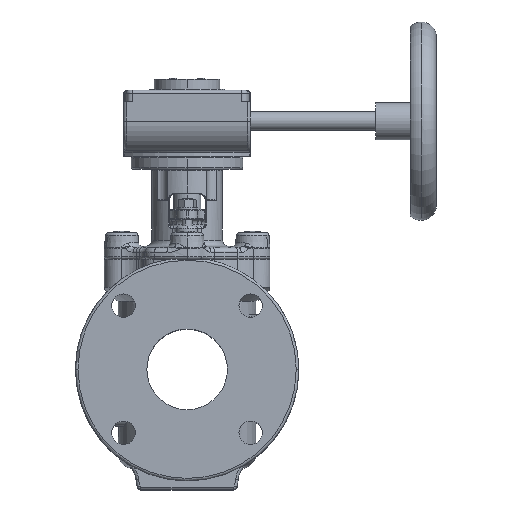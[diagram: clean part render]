
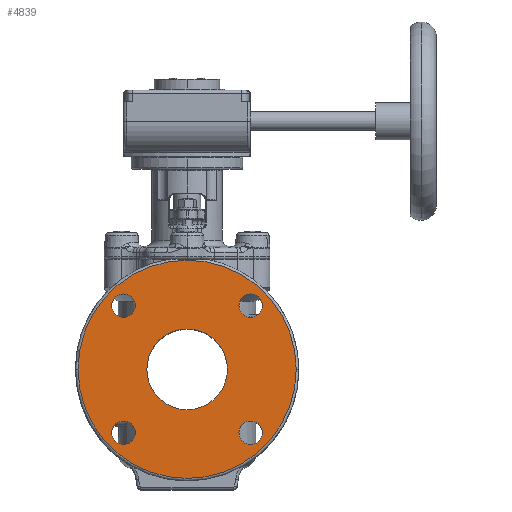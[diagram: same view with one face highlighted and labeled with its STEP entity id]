
A CAD part, top view. The second image highlights one B-rep face of the part: STEP entity #4839.
In plain terms, the highlighted planar face has unit normal (0, 0, 1).
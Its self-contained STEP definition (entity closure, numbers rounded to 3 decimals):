
#125 = DIRECTION ( 'NONE',  ( 1., 0., 0. ) ) ;
#142 = ORIENTED_EDGE ( 'NONE', *, *, #26993, .F. ) ;
#289 = CARTESIAN_POINT ( 'NONE',  ( -51.265, 51.265, 95. ) ) ;
#296 = CIRCLE ( 'NONE', #9255, 32.5 ) ;
#574 = VERTEX_POINT ( 'NONE', #10365 ) ;
#698 = AXIS2_PLACEMENT_3D ( 'NONE', #27262, #35847, #20684 ) ;
#1092 = AXIS2_PLACEMENT_3D ( 'NONE', #31806, #25431, #31409 ) ;
#1857 = EDGE_LOOP ( 'NONE', ( #19590, #6294 ) ) ;
#2225 = VERTEX_POINT ( 'NONE', #7156 ) ;
#2403 = DIRECTION ( 'NONE',  ( 0., 0., 1. ) ) ;
#2483 = VERTEX_POINT ( 'NONE', #38043 ) ;
#3010 = CIRCLE ( 'NONE', #1092, 9.5 ) ;
#3712 = DIRECTION ( 'NONE',  ( 0., -1., 0. ) ) ;
#4077 = DIRECTION ( 'NONE',  ( 1., 0., 0. ) ) ;
#4427 = ORIENTED_EDGE ( 'NONE', *, *, #31666, .T. ) ;
#4599 = AXIS2_PLACEMENT_3D ( 'NONE', #25460, #16482, #4077 ) ;
#4839 = ADVANCED_FACE ( 'Defeatured_0_191', ( #13297, #7296, #16081, #19668, #34229, #28866 ), #28253, .T. ) ;
#5544 = DIRECTION ( 'NONE',  ( -1., 0., 0. ) ) ;
#5937 = CARTESIAN_POINT ( 'NONE',  ( -41.765, 51.265, 95. ) ) ;
#6294 = ORIENTED_EDGE ( 'NONE', *, *, #24789, .F. ) ;
#6383 = CARTESIAN_POINT ( 'NONE',  ( 88., 0., 95. ) ) ;
#6721 = DIRECTION ( 'NONE',  ( 0., 0., 1. ) ) ;
#6723 = AXIS2_PLACEMENT_3D ( 'NONE', #26968, #2403, #12186 ) ;
#7156 = CARTESIAN_POINT ( 'NONE',  ( -60.765, -51.265, 95. ) ) ;
#7296 = FACE_BOUND ( 'NONE', #19186, .T. ) ;
#7650 = DIRECTION ( 'NONE',  ( 0., 0., 1. ) ) ;
#8151 = AXIS2_PLACEMENT_3D ( 'NONE', #19788, #38155, #10833 ) ;
#8359 = CARTESIAN_POINT ( 'NONE',  ( 32.5, 0., 95. ) ) ;
#9255 = AXIS2_PLACEMENT_3D ( 'NONE', #19191, #16411, #28590 ) ;
#9511 = DIRECTION ( 'NONE',  ( 1., 0., 0. ) ) ;
#9561 = EDGE_CURVE ( 'Defeatured_0_191+Defeatured_0_624+Defeatured_0_624+Defeatured_0_624', #25676, #31286, #37265, .T. ) ;
#9849 = VERTEX_POINT ( 'NONE', #5937 ) ;
#10365 = CARTESIAN_POINT ( 'NONE',  ( -60.765, 51.265, 95. ) ) ;
#10800 = CARTESIAN_POINT ( 'NONE',  ( -51.265, -51.265, 95. ) ) ;
#10833 = DIRECTION ( 'NONE',  ( 1., 0., 0. ) ) ;
#11460 = VERTEX_POINT ( 'NONE', #6383 ) ;
#11585 = VERTEX_POINT ( 'NONE', #27131 ) ;
#11695 = DIRECTION ( 'NONE',  ( 1., 0., 0. ) ) ;
#12186 = DIRECTION ( 'NONE',  ( 0., -1., 0. ) ) ;
#12205 = CIRCLE ( 'NONE', #13467, 88. ) ;
#12513 = DIRECTION ( 'NONE',  ( 0., 0., 1. ) ) ;
#12687 = EDGE_CURVE ( 'Defeatured_0_628+Defeatured_0_191+Defeatured_0_191+Defeatured_0_191', #20070, #11585, #23959, .T. ) ;
#13297 = FACE_BOUND ( 'NONE', #37173, .T. ) ;
#13467 = AXIS2_PLACEMENT_3D ( 'NONE', #14690, #39019, #11695 ) ;
#14690 = CARTESIAN_POINT ( 'NONE',  ( 0., 0., 95. ) ) ;
#15325 = DIRECTION ( 'NONE',  ( 0., 0., 1. ) ) ;
#15356 = CIRCLE ( 'NONE', #20464, 9.5 ) ;
#16081 = FACE_BOUND ( 'NONE', #35472, .T. ) ;
#16230 = ORIENTED_EDGE ( 'NONE', *, *, #12687, .F. ) ;
#16260 = AXIS2_PLACEMENT_3D ( 'NONE', #17930, #30096, #125 ) ;
#16369 = DIRECTION ( 'NONE',  ( 0., 1., 0. ) ) ;
#16411 = DIRECTION ( 'NONE',  ( 0., 0., -1. ) ) ;
#16482 = DIRECTION ( 'NONE',  ( 0., 0., 1. ) ) ;
#17233 = DIRECTION ( 'NONE',  ( 0., 1., 0. ) ) ;
#17415 = ORIENTED_EDGE ( 'NONE', *, *, #21562, .F. ) ;
#17930 = CARTESIAN_POINT ( 'NONE',  ( 0., 0., 95. ) ) ;
#18154 = EDGE_CURVE ( 'Defeatured_0_628+Defeatured_0_191+Defeatured_0_191+Defeatured_0_191', #11585, #20070, #30668, .T. ) ;
#19186 = EDGE_LOOP ( 'NONE', ( #142, #17415 ) ) ;
#19191 = CARTESIAN_POINT ( 'NONE',  ( 0., 0., 95. ) ) ;
#19590 = ORIENTED_EDGE ( 'NONE', *, *, #37801, .F. ) ;
#19668 = FACE_BOUND ( 'NONE', #1857, .T. ) ;
#19735 = CARTESIAN_POINT ( 'NONE',  ( -88., 0., 95. ) ) ;
#19788 = CARTESIAN_POINT ( 'NONE',  ( -51.265, 51.265, 95. ) ) ;
#20070 = VERTEX_POINT ( 'NONE', #29361 ) ;
#20464 = AXIS2_PLACEMENT_3D ( 'NONE', #289, #12513, #9511 ) ;
#20684 = DIRECTION ( 'NONE',  ( 1., 0., 0. ) ) ;
#21221 = ORIENTED_EDGE ( 'NONE', *, *, #35785, .F. ) ;
#21562 = EDGE_CURVE ( 'Defeatured_0_627+Defeatured_0_191+Defeatured_0_191+Defeatured_0_191', #34665, #2483, #35133, .T. ) ;
#22409 = EDGE_CURVE ( 'Defeatured_0_191+Defeatured_0_47+Defeatured_0_47+Defeatured_0_47', #29412, #11460, #38971, .T. ) ;
#22797 = ORIENTED_EDGE ( 'NONE', *, *, #23859, .T. ) ;
#23859 = EDGE_CURVE ( 'Defeatured_0_191+Defeatured_0_47+Defeatured_0_47+Defeatured_0_47', #11460, #29412, #12205, .T. ) ;
#23959 = CIRCLE ( 'NONE', #6723, 9.5 ) ;
#24032 = EDGE_LOOP ( 'NONE', ( #22797, #29885 ) ) ;
#24109 = CARTESIAN_POINT ( 'NONE',  ( 51.265, -51.265, 95. ) ) ;
#24112 = CARTESIAN_POINT ( 'NONE',  ( 41.765, -51.265, 95. ) ) ;
#24699 = CARTESIAN_POINT ( 'NONE',  ( 51.265, 51.265, 95. ) ) ;
#24789 = EDGE_CURVE ( 'Defeatured_0_625+Defeatured_0_191+Defeatured_0_191+Defeatured_0_191', #574, #9849, #37427, .T. ) ;
#25431 = DIRECTION ( 'NONE',  ( 0., 0., 1. ) ) ;
#25460 = CARTESIAN_POINT ( 'NONE',  ( 0., 0., 95. ) ) ;
#25473 = CIRCLE ( 'NONE', #28004, 9.5 ) ;
#25676 = VERTEX_POINT ( 'NONE', #8359 ) ;
#26041 = CARTESIAN_POINT ( 'NONE',  ( -32.5, 0., 95. ) ) ;
#26168 = CIRCLE ( 'NONE', #27429, 9.5 ) ;
#26570 = VERTEX_POINT ( 'NONE', #30268 ) ;
#26968 = CARTESIAN_POINT ( 'NONE',  ( 51.265, 51.265, 95. ) ) ;
#26993 = EDGE_CURVE ( 'Defeatured_0_627+Defeatured_0_191+Defeatured_0_191+Defeatured_0_191', #2483, #34665, #3010, .T. ) ;
#27131 = CARTESIAN_POINT ( 'NONE',  ( 60.765, 51.265, 95. ) ) ;
#27262 = CARTESIAN_POINT ( 'NONE',  ( 0., 0., 95. ) ) ;
#27429 = AXIS2_PLACEMENT_3D ( 'NONE', #29592, #7650, #17233 ) ;
#27497 = AXIS2_PLACEMENT_3D ( 'NONE', #24699, #6721, #3712 ) ;
#28004 = AXIS2_PLACEMENT_3D ( 'NONE', #10800, #31114, #16369 ) ;
#28253 = PLANE ( 'NONE',  #4599 ) ;
#28590 = DIRECTION ( 'NONE',  ( 1., 0., 0. ) ) ;
#28866 = FACE_OUTER_BOUND ( 'NONE', #24032, .T. ) ;
#29361 = CARTESIAN_POINT ( 'NONE',  ( 41.765, 51.265, 95. ) ) ;
#29412 = VERTEX_POINT ( 'NONE', #19735 ) ;
#29592 = CARTESIAN_POINT ( 'NONE',  ( -51.265, -51.265, 95. ) ) ;
#29885 = ORIENTED_EDGE ( 'NONE', *, *, #22409, .T. ) ;
#30068 = ORIENTED_EDGE ( 'NONE', *, *, #18154, .F. ) ;
#30096 = DIRECTION ( 'NONE',  ( 0., 0., -1. ) ) ;
#30255 = ORIENTED_EDGE ( 'NONE', *, *, #9561, .T. ) ;
#30268 = CARTESIAN_POINT ( 'NONE',  ( -41.765, -51.265, 95. ) ) ;
#30668 = CIRCLE ( 'NONE', #27497, 9.5 ) ;
#31114 = DIRECTION ( 'NONE',  ( 0., 0., 1. ) ) ;
#31286 = VERTEX_POINT ( 'NONE', #26041 ) ;
#31409 = DIRECTION ( 'NONE',  ( -1., 0., 0. ) ) ;
#31666 = EDGE_CURVE ( 'Defeatured_0_191+Defeatured_0_624+Defeatured_0_624+Defeatured_0_624', #31286, #25676, #296, .T. ) ;
#31806 = CARTESIAN_POINT ( 'NONE',  ( 51.265, -51.265, 95. ) ) ;
#34192 = EDGE_LOOP ( 'NONE', ( #4427, #30255 ) ) ;
#34229 = FACE_BOUND ( 'NONE', #34192, .T. ) ;
#34665 = VERTEX_POINT ( 'NONE', #24112 ) ;
#35133 = CIRCLE ( 'NONE', #35838, 9.5 ) ;
#35472 = EDGE_LOOP ( 'NONE', ( #21221, #39085 ) ) ;
#35785 = EDGE_CURVE ( 'Defeatured_0_626+Defeatured_0_191+Defeatured_0_191+Defeatured_0_191', #26570, #2225, #25473, .T. ) ;
#35838 = AXIS2_PLACEMENT_3D ( 'NONE', #24109, #15325, #5544 ) ;
#35847 = DIRECTION ( 'NONE',  ( 0., 0., 1. ) ) ;
#37173 = EDGE_LOOP ( 'NONE', ( #30068, #16230 ) ) ;
#37232 = EDGE_CURVE ( 'Defeatured_0_626+Defeatured_0_191+Defeatured_0_191+Defeatured_0_191', #2225, #26570, #26168, .T. ) ;
#37265 = CIRCLE ( 'NONE', #16260, 32.5 ) ;
#37427 = CIRCLE ( 'NONE', #8151, 9.5 ) ;
#37801 = EDGE_CURVE ( 'Defeatured_0_625+Defeatured_0_191+Defeatured_0_191+Defeatured_0_191', #9849, #574, #15356, .T. ) ;
#38043 = CARTESIAN_POINT ( 'NONE',  ( 60.765, -51.265, 95. ) ) ;
#38155 = DIRECTION ( 'NONE',  ( 0., 0., 1. ) ) ;
#38971 = CIRCLE ( 'NONE', #698, 88. ) ;
#39019 = DIRECTION ( 'NONE',  ( 0., 0., 1. ) ) ;
#39085 = ORIENTED_EDGE ( 'NONE', *, *, #37232, .F. ) ;
